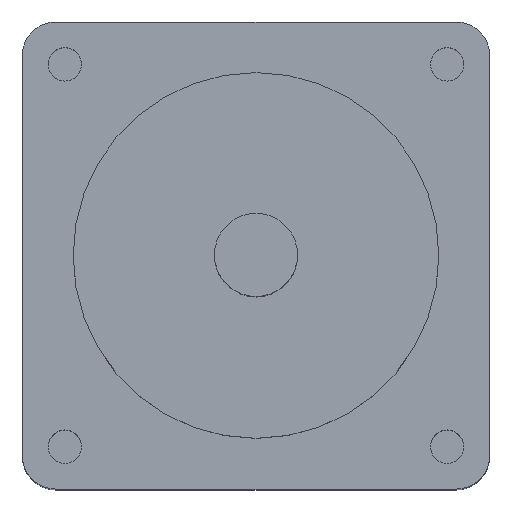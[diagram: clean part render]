
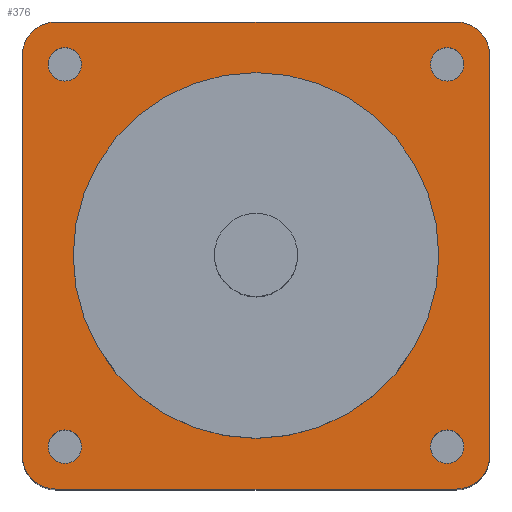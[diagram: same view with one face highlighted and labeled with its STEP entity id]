
A CAD part, top view. The second image highlights one B-rep face of the part: STEP entity #376.
In plain terms, the highlighted planar face has unit normal (0, 0, 1).
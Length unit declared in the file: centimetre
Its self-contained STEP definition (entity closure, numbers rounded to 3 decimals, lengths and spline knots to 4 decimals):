
#153=VERTEX_POINT('',#1516);
#155=VERTEX_POINT('',#1522);
#157=VERTEX_POINT('',#1528);
#159=VERTEX_POINT('',#1534);
#163=VERTEX_POINT('',#1546);
#164=VERTEX_POINT('',#1550);
#165=VERTEX_POINT('',#1551);
#168=VERTEX_POINT('',#1559);
#170=VERTEX_POINT('',#1565);
#172=VERTEX_POINT('',#1571);
#174=VERTEX_POINT('',#1577);
#176=VERTEX_POINT('',#1583);
#178=VERTEX_POINT('',#1589);
#181=EDGE_CURVE('',#153,#153,#487,.T.);
#183=EDGE_CURVE('',#155,#155,#489,.T.);
#185=EDGE_CURVE('',#157,#157,#491,.T.);
#187=EDGE_CURVE('',#159,#159,#493,.T.);
#191=EDGE_CURVE('',#163,#163,#497,.T.);
#192=EDGE_CURVE('',#164,#165,#498,.T.);
#196=EDGE_CURVE('',#165,#168,#542,.T.);
#199=EDGE_CURVE('',#168,#170,#500,.T.);
#202=EDGE_CURVE('',#170,#172,#546,.T.);
#205=EDGE_CURVE('',#172,#174,#502,.T.);
#208=EDGE_CURVE('',#174,#176,#550,.T.);
#211=EDGE_CURVE('',#176,#178,#504,.T.);
#214=EDGE_CURVE('',#178,#164,#554,.T.);
#267=ORIENTED_EDGE('',*,*,#181,.T.);
#268=ORIENTED_EDGE('',*,*,#183,.T.);
#269=ORIENTED_EDGE('',*,*,#185,.T.);
#270=ORIENTED_EDGE('',*,*,#187,.T.);
#271=ORIENTED_EDGE('',*,*,#191,.T.);
#272=ORIENTED_EDGE('',*,*,#192,.F.);
#273=ORIENTED_EDGE('',*,*,#214,.F.);
#274=ORIENTED_EDGE('',*,*,#211,.F.);
#275=ORIENTED_EDGE('',*,*,#208,.F.);
#276=ORIENTED_EDGE('',*,*,#205,.F.);
#277=ORIENTED_EDGE('',*,*,#202,.F.);
#278=ORIENTED_EDGE('',*,*,#199,.F.);
#279=ORIENTED_EDGE('',*,*,#196,.F.);
#315=EDGE_LOOP('',(#267));
#316=EDGE_LOOP('',(#268));
#317=EDGE_LOOP('',(#269));
#318=EDGE_LOOP('',(#270));
#319=EDGE_LOOP('',(#271));
#320=EDGE_LOOP('',(#272,#273,#274,#275,#276,#277,#278,#279));
#349=FACE_BOUND('',#315,.T.);
#350=FACE_BOUND('',#316,.T.);
#351=FACE_BOUND('',#317,.T.);
#352=FACE_BOUND('',#318,.T.);
#353=FACE_BOUND('',#319,.T.);
#354=FACE_BOUND('',#320,.T.);
#376=ADVANCED_FACE('',(#349,#350,#351,#352,#353,#354),#1176,.T.);
#487=CIRCLE('',#1066,0.1007);
#489=CIRCLE('',#1070,0.1007);
#491=CIRCLE('',#1074,0.1007);
#493=CIRCLE('',#1078,0.1007);
#497=CIRCLE('',#1086,1.1);
#498=CIRCLE('',#1089,0.2);
#500=CIRCLE('',#1093,0.2);
#502=CIRCLE('',#1097,0.2);
#504=CIRCLE('',#1101,0.2);
#542=LINE('',#1558,#1144);
#546=LINE('',#1570,#1148);
#550=LINE('',#1582,#1152);
#554=LINE('',#1594,#1156);
#1066=AXIS2_PLACEMENT_3D('',#1515,#1288,#1289);
#1070=AXIS2_PLACEMENT_3D('',#1521,#1295,#1296);
#1074=AXIS2_PLACEMENT_3D('',#1527,#1302,#1303);
#1078=AXIS2_PLACEMENT_3D('',#1533,#1309,#1310);
#1086=AXIS2_PLACEMENT_3D('',#1545,#1323,#1324);
#1089=AXIS2_PLACEMENT_3D('',#1549,#1328,#1329);
#1093=AXIS2_PLACEMENT_3D('',#1564,#1340,#1341);
#1097=AXIS2_PLACEMENT_3D('',#1576,#1351,#1352);
#1101=AXIS2_PLACEMENT_3D('',#1588,#1362,#1363);
#1104=AXIS2_PLACEMENT_3D('',#1596,#1370,$);
#1144=VECTOR('',#1335,1.);
#1148=VECTOR('',#1346,1.);
#1152=VECTOR('',#1357,1.);
#1156=VECTOR('',#1368,1.);
#1176=PLANE('',#1104);
#1288=DIRECTION('',(0.,0.,-1.));
#1289=DIRECTION('',(0.,0.101,0.));
#1295=DIRECTION('',(0.,0.,-1.));
#1296=DIRECTION('',(0.,0.101,0.));
#1302=DIRECTION('',(0.,0.,-1.));
#1303=DIRECTION('',(0.,0.101,0.));
#1309=DIRECTION('',(0.,0.,-1.));
#1310=DIRECTION('',(0.,0.101,0.));
#1323=DIRECTION('',(0.,0.,-1.));
#1324=DIRECTION('',(1.1,0.,0.));
#1328=DIRECTION('',(0.,0.,-1.));
#1329=DIRECTION('',(0.2,0.,0.));
#1335=DIRECTION('',(-1.,0.,0.));
#1340=DIRECTION('',(0.,0.,-1.));
#1341=DIRECTION('',(0.2,0.,0.));
#1346=DIRECTION('',(0.,1.,0.));
#1351=DIRECTION('',(0.,0.,-1.));
#1352=DIRECTION('',(0.2,0.,0.));
#1357=DIRECTION('',(1.,0.,0.));
#1362=DIRECTION('',(0.,0.,-1.));
#1363=DIRECTION('',(0.2,0.,0.));
#1368=DIRECTION('',(0.,-1.,0.));
#1370=DIRECTION('',(0.,0.,1.));
#1515=CARTESIAN_POINT('',(-0.255,0.255,3.2));
#1516=CARTESIAN_POINT('',(-0.255,0.3557,3.2));
#1521=CARTESIAN_POINT('',(-2.555,0.255,3.2));
#1522=CARTESIAN_POINT('',(-2.555,0.3556,3.2));
#1527=CARTESIAN_POINT('',(-2.555,2.555,3.2));
#1528=CARTESIAN_POINT('',(-2.555,2.6556,3.2));
#1533=CARTESIAN_POINT('',(-0.2549,2.5551,3.2));
#1534=CARTESIAN_POINT('',(-0.2549,2.6557,3.2));
#1545=CARTESIAN_POINT('',(-1.405,1.405,3.2));
#1546=CARTESIAN_POINT('',(-0.305,1.405,3.2));
#1549=CARTESIAN_POINT('',(-0.2,0.2,3.2));
#1550=CARTESIAN_POINT('',(0.,0.2,3.2));
#1551=CARTESIAN_POINT('',(-0.2,0.,3.2));
#1558=CARTESIAN_POINT('',(-2.61,0.,3.2));
#1559=CARTESIAN_POINT('',(-2.61,0.,3.2));
#1564=CARTESIAN_POINT('',(-2.61,0.2,3.2));
#1565=CARTESIAN_POINT('',(-2.81,0.2,3.2));
#1570=CARTESIAN_POINT('',(-2.81,2.61,3.2));
#1571=CARTESIAN_POINT('',(-2.81,2.61,3.2));
#1576=CARTESIAN_POINT('',(-2.61,2.61,3.2));
#1577=CARTESIAN_POINT('',(-2.61,2.81,3.2));
#1582=CARTESIAN_POINT('',(-0.2,2.81,3.2));
#1583=CARTESIAN_POINT('',(-0.2,2.81,3.2));
#1588=CARTESIAN_POINT('',(-0.2,2.61,3.2));
#1589=CARTESIAN_POINT('',(0.,2.61,3.2));
#1594=CARTESIAN_POINT('',(0.,0.2,3.2));
#1596=CARTESIAN_POINT('',(-1.405,1.405,3.2));
